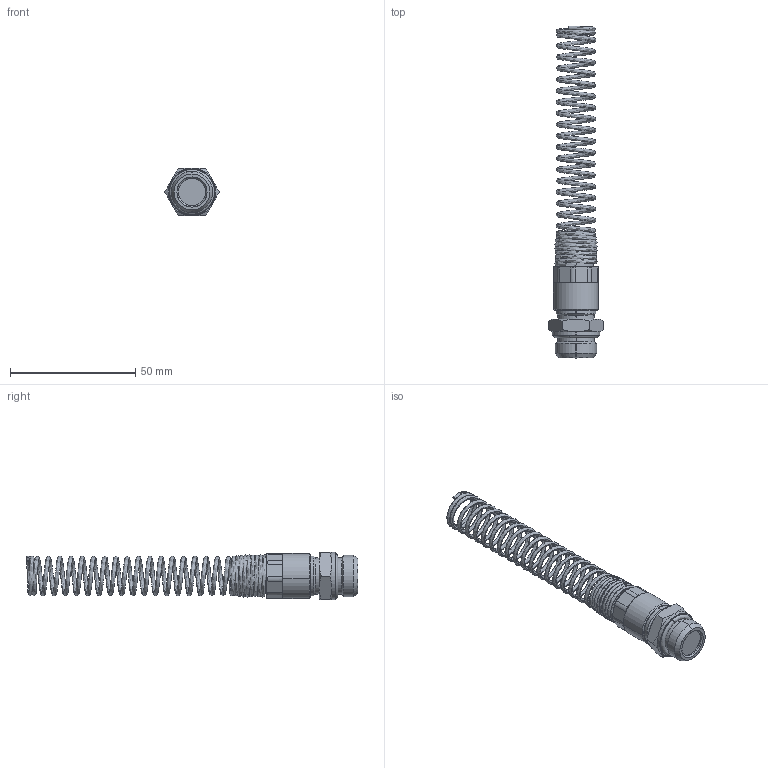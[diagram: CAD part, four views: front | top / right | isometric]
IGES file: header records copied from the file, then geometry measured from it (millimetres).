
Start section: SolidWorks IGES file using analytic representation for surfaces
Global section: file name: K:\Disegni Esecutivi\Serie 1000\Complessivi Serie 1000\1028\1028_iges\0102800013A.IGS; native system: SolidWorks 2008; preprocessor: SolidWorks 2008; author: cad05; date: 090204.143911; units: millimetre
Bounding box: 21.94 x 132.65 x 19 mm (x, y, z)
Surface area: 12368.5 mm2 (no closed solid volume)
Topology: 0 solids, 0 shells, 129 faces, 1849 edges, 1849 vertices
Faces by surface type: revolution 85, bspline 44
